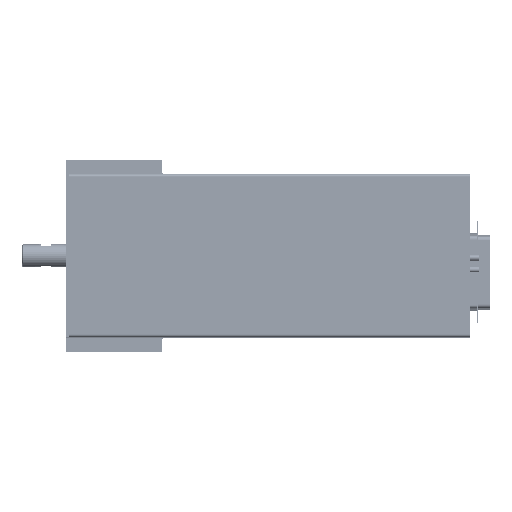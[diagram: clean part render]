
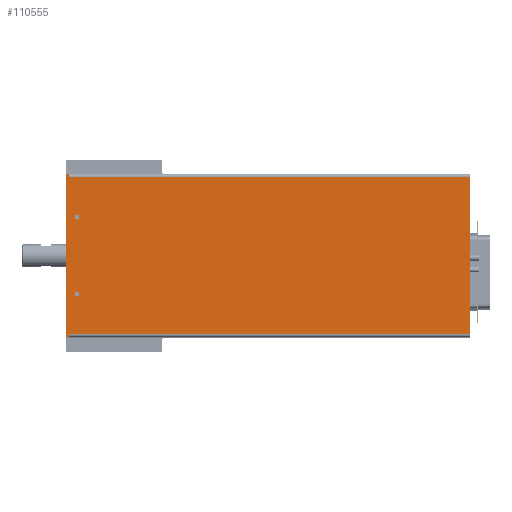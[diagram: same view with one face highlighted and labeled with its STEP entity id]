
A CAD part, top view. The second image highlights one B-rep face of the part: STEP entity #110555.
In plain terms, the highlighted planar face has unit normal (0, 0, 1).
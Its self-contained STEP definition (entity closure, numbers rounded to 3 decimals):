
#5284=CARTESIAN_POINT('',(114.537,-25.813,108.483));
#5285=VERTEX_POINT('',#5284);
#5294=CARTESIAN_POINT('',(112.037,-25.813,108.483));
#5295=VERTEX_POINT('',#5294);
#5296=CARTESIAN_POINT('',(113.287,-25.813,108.483));
#5297=DIRECTION('',(0.0,0.0,-1.0));
#5298=DIRECTION('',(1.0,0.0,0.0));
#5299=AXIS2_PLACEMENT_3D('',#5296,#5297,#5298);
#5300=CIRCLE('',#5299,1.25);
#5301=EDGE_CURVE('',#5295,#5285,#5300,.T.);
#5326=CARTESIAN_POINT('',(114.537,14.187,108.483));
#5327=VERTEX_POINT('',#5326);
#5336=CARTESIAN_POINT('',(112.037,14.187,108.483));
#5337=VERTEX_POINT('',#5336);
#5338=CARTESIAN_POINT('',(113.287,14.187,108.483));
#5339=DIRECTION('',(0.0,0.0,-1.0));
#5340=DIRECTION('',(1.0,0.0,0.0));
#5341=AXIS2_PLACEMENT_3D('',#5338,#5339,#5340);
#5342=CIRCLE('',#5341,1.25);
#5343=EDGE_CURVE('',#5337,#5327,#5342,.T.);
#31764=CARTESIAN_POINT('',(317.319,-46.713,108.483));
#31765=VERTEX_POINT('',#31764);
#31773=CARTESIAN_POINT('',(109.287,-46.713,108.483));
#31774=VERTEX_POINT('',#31773);
#31775=CARTESIAN_POINT('',(317.319,-46.713,108.483));
#31776=DIRECTION('',(-1.0,0.0,0.0));
#31777=VECTOR('',#31776,208.032);
#31778=LINE('',#31775,#31777);
#31779=EDGE_CURVE('',#31765,#31774,#31778,.T.);
#79484=CARTESIAN_POINT('',(109.287,-48.313,108.483));
#79485=VERTEX_POINT('',#79484);
#79486=CARTESIAN_POINT('',(109.287,-46.713,108.483));
#79487=DIRECTION('',(0.0,-1.0,0.0));
#79488=VECTOR('',#79487,1.6);
#79489=LINE('',#79486,#79488);
#79490=EDGE_CURVE('',#31774,#79485,#79489,.T.);
#79571=CARTESIAN_POINT('',(109.287,36.687,108.483));
#79572=VERTEX_POINT('',#79571);
#79579=CARTESIAN_POINT('',(109.287,35.087,108.483));
#79580=VERTEX_POINT('',#79579);
#79581=CARTESIAN_POINT('',(109.287,36.687,108.483));
#79582=DIRECTION('',(0.0,-1.0,0.0));
#79583=VECTOR('',#79582,1.6);
#79584=LINE('',#79581,#79583);
#79585=EDGE_CURVE('',#79572,#79580,#79584,.T.);
#104300=CARTESIAN_POINT('',(107.287,-48.313,108.483));
#104301=VERTEX_POINT('',#104300);
#104302=CARTESIAN_POINT('',(107.287,-48.313,108.483));
#104303=DIRECTION('',(1.0,0.0,0.0));
#104304=VECTOR('',#104303,2.0);
#104305=LINE('',#104302,#104304);
#104306=EDGE_CURVE('',#104301,#79485,#104305,.T.);
#110361=CARTESIAN_POINT('',(107.287,36.687,108.483));
#110362=VERTEX_POINT('',#110361);
#110369=CARTESIAN_POINT('',(107.287,36.687,108.483));
#110370=DIRECTION('',(1.0,0.0,0.0));
#110371=VECTOR('',#110370,2.0);
#110372=LINE('',#110369,#110371);
#110373=EDGE_CURVE('',#110362,#79572,#110372,.T.);
#110389=CARTESIAN_POINT('',(107.287,-48.313,108.483));
#110390=DIRECTION('',(0.0,1.0,0.0));
#110391=VECTOR('',#110390,85.0);
#110392=LINE('',#110389,#110391);
#110393=EDGE_CURVE('',#104301,#110362,#110392,.T.);
#110497=CARTESIAN_POINT('',(317.319,35.087,108.483));
#110498=VERTEX_POINT('',#110497);
#110499=CARTESIAN_POINT('',(109.287,35.087,108.483));
#110500=DIRECTION('',(1.0,0.0,0.0));
#110501=VECTOR('',#110500,208.032);
#110502=LINE('',#110499,#110501);
#110503=EDGE_CURVE('',#79580,#110498,#110502,.T.);
#110515=CARTESIAN_POINT('',(312.303,-5.813,108.483));
#110516=DIRECTION('',(0.0,0.0,-1.0));
#110517=DIRECTION('',(1.0,0.0,0.0));
#110518=AXIS2_PLACEMENT_3D('',#110515,#110516,#110517);
#110519=PLANE('',#110518);
#110520=ORIENTED_EDGE('',*,*,#31779,.F.);
#110521=CARTESIAN_POINT('',(317.319,-46.713,108.483));
#110522=DIRECTION('',(0.0,1.0,0.0));
#110523=VECTOR('',#110522,81.8);
#110524=LINE('',#110521,#110523);
#110525=EDGE_CURVE('',#31765,#110498,#110524,.T.);
#110526=ORIENTED_EDGE('',*,*,#110525,.T.);
#110527=ORIENTED_EDGE('',*,*,#110503,.F.);
#110528=ORIENTED_EDGE('',*,*,#79585,.F.);
#110529=ORIENTED_EDGE('',*,*,#110373,.F.);
#110530=ORIENTED_EDGE('',*,*,#110393,.F.);
#110531=ORIENTED_EDGE('',*,*,#104306,.T.);
#110532=ORIENTED_EDGE('',*,*,#79490,.F.);
#110533=EDGE_LOOP('',(#110520,#110526,#110527,#110528,#110529,#110530,#110531,#110532));
#110534=FACE_OUTER_BOUND('',#110533,.T.);
#110535=ORIENTED_EDGE('',*,*,#5343,.T.);
#110536=CARTESIAN_POINT('',(113.287,14.187,108.483));
#110537=DIRECTION('',(0.0,0.0,-1.0));
#110538=DIRECTION('',(1.0,0.0,0.0));
#110539=AXIS2_PLACEMENT_3D('',#110536,#110537,#110538);
#110540=CIRCLE('',#110539,1.25);
#110541=EDGE_CURVE('',#5327,#5337,#110540,.T.);
#110542=ORIENTED_EDGE('',*,*,#110541,.T.);
#110543=EDGE_LOOP('',(#110535,#110542));
#110544=FACE_BOUND('',#110543,.T.);
#110545=ORIENTED_EDGE('',*,*,#5301,.T.);
#110546=CARTESIAN_POINT('',(113.287,-25.813,108.483));
#110547=DIRECTION('',(0.0,0.0,-1.0));
#110548=DIRECTION('',(1.0,0.0,0.0));
#110549=AXIS2_PLACEMENT_3D('',#110546,#110547,#110548);
#110550=CIRCLE('',#110549,1.25);
#110551=EDGE_CURVE('',#5285,#5295,#110550,.T.);
#110552=ORIENTED_EDGE('',*,*,#110551,.T.);
#110553=EDGE_LOOP('',(#110545,#110552));
#110554=FACE_BOUND('',#110553,.T.);
#110555=ADVANCED_FACE('',(#110534,#110544,#110554),#110519,.F.);
